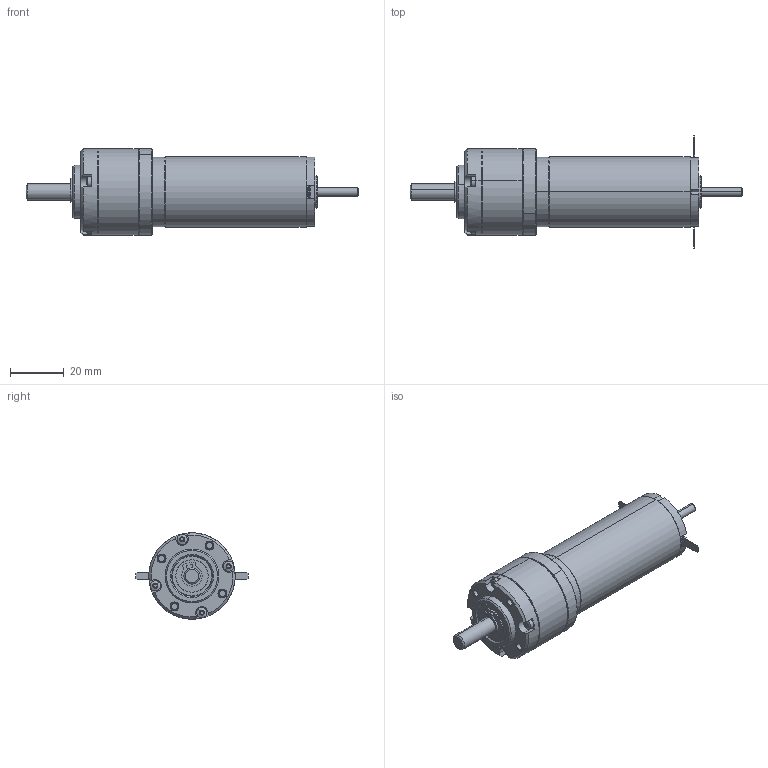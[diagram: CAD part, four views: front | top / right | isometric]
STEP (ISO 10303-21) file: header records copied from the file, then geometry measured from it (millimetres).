
FILE_DESCRIPTION (( 'STEP AP214' ), '1' );
FILE_NAME ('DCX26LG + PM32 1etage.STEP', '2015-05-28T13:03:36', ( '' ), ( '' ), 'SwSTEP 2.0', 'SolidWorks 2014', '' );
FILE_SCHEMA (( 'AUTOMOTIVE_DESIGN' ));
Length unit declared in the file: millimetre
Products named in the file (20): GK235_POS13_LAGERBOLZEN_1; GK545_POS22_ABTRIEB_ROHTEIL_AF0_1; DIN998_PS_6X12X0_5_1; D625-619_6-2Z_1; D472_15X1_1; 8101913_LAGERFLANSCH_1; DCX26LG_Part; PM32 pour RE25_1 etage; DCX26LG + PM32 1etage; P8209_8100249_ZAHNKRANZ_1ST_1; Coté moteur^PM32 pour RE25; SCHRAUBE_1237409; MOTORRITZEL_Z17_1248761; 8011610_ANLAUFSCHEIBE_G_1ST_1; MOTORFLANSCH_1248630; Coté sortie^PM32 pour RE25; FLACHKOPFSCHRAUBE_M2X21_PRECOTE_1; GK235_POS42_DICHTRING_1; DIN471_SR_06X00_7_1; GK545_POS23_4_ABTRIEB_LK4_KPL_1
Assembly tree (30 placements, depth 5):
  DCX26LG + PM32 1etage
    DCX26LG_Part
    PM32 pour RE25_1 etage
      Coté sortie^PM32 pour RE25
        8101913_LAGERFLANSCH_1
        D472_15X1_1
        D625-619_6-2Z_1  x2
        DIN998_PS_6X12X0_5_1  x2
        GK545_POS23_4_ABTRIEB_LK4_KPL_1
          GK545_POS22_ABTRIEB_ROHTEIL_AF0_1
          GK235_POS13_LAGERBOLZEN_1  x3
        DIN471_SR_06X00_7_1
        GK235_POS42_DICHTRING_1
        FLACHKOPFSCHRAUBE_M2X21_PRECOTE_1  x4
      Coté moteur^PM32 pour RE25
        GK235_POS42_DICHTRING_1
        MOTORFLANSCH_1248630
        8011610_ANLAUFSCHEIBE_G_1ST_1
        MOTORRITZEL_Z17_1248761
        SCHRAUBE_1237409  x3
      P8209_8100249_ZAHNKRANZ_1ST_1
      GK235_POS42_DICHTRING_1
Bounding box: 123 x 41.5 x 32 mm (x, y, z)
Volume: 37169.6 mm3; surface area: 34441.6 mm2
Topology: 36 solids, 62 shells, 2542 faces, 6490 edges, 4148 vertices
Faces by surface type: plane 981, cylinder 885, cone 471, bspline 205
Entity records: 86886 total; most frequent: CARTESIAN_POINT 16965, DIRECTION 11749, ORIENTED_EDGE 11410, EDGE_CURVE 5724, AXIS2_PLACEMENT_3D 4171, VERTEX_POINT 3656, VECTOR 3407, LINE 3407
